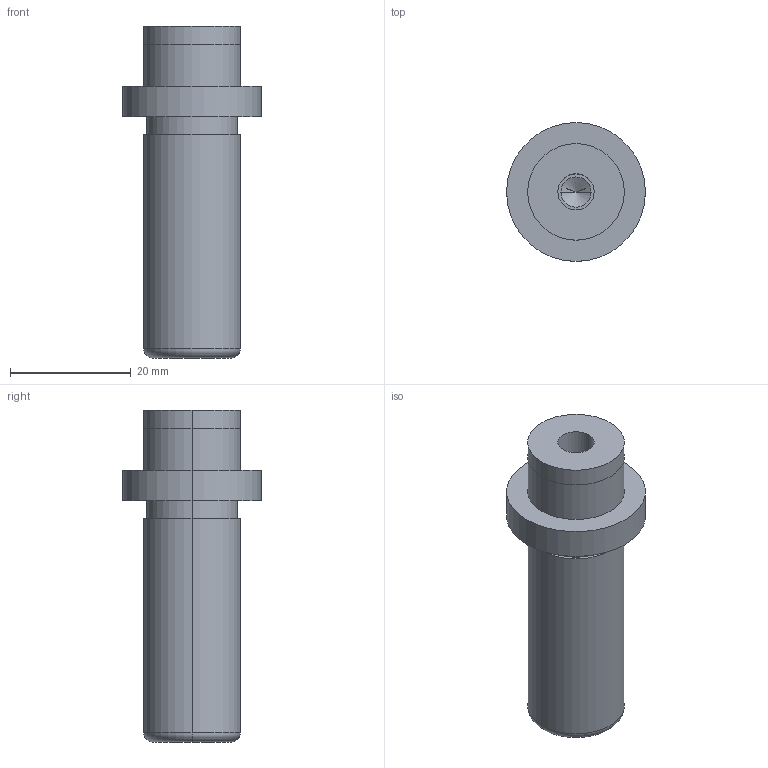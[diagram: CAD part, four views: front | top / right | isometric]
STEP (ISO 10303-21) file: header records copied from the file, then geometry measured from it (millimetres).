
FILE_DESCRIPTION(/* description */ (''),/* implementation_level */ '2;1');
FILE_NAME(/* name */ '3d_sgpw16-45_05274_r00.stp',/* time_stamp */ '2011-01-10T14:11:05+09:00',/* author */ ('MISUMI'),/* organization */ (''),/* preprocessor_version */ 'ST-DEVELOPER v11',/* originating_system */ 'UGS - NX 5.0',/* authorisation */ '');
FILE_SCHEMA (('CONFIG_CONTROL_DESIGN'));
Length unit declared in the file: millimetre
Products named in the file (1): 3d_sgpw16-45_05274_r00
Bounding box: 23 x 23 x 55 mm (x, y, z)
Volume: 11229.9 mm3; surface area: 4251.6 mm2
Topology: 1 solids, 1 shells, 31 faces, 64 edges, 38 vertices
Faces by surface type: cylinder 18, plane 7, cone 4, torus 2
Entity records: 890 total; most frequent: DIRECTION 162, CARTESIAN_POINT 130, ORIENTED_EDGE 120, AXIS2_PLACEMENT_3D 70, EDGE_CURVE 60, EDGE_LOOP 38, CIRCLE 38, VERTEX_POINT 38
